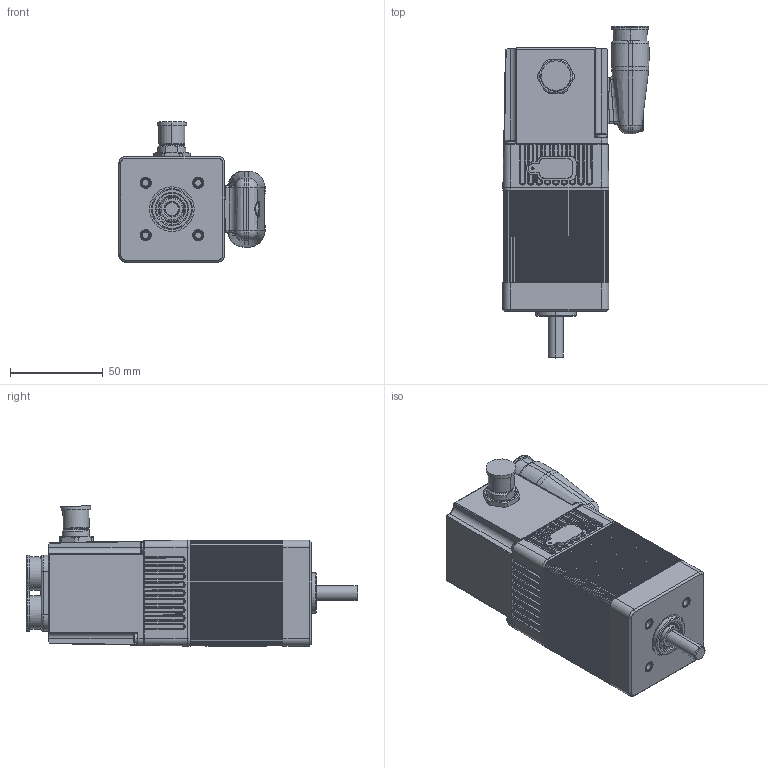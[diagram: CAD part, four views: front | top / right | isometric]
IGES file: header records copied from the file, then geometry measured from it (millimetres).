
Start section:  PTC IGES file: 80280302.igs
Global section: file name: 80280302.igs; native system: Creo Elements/Pro by Parametric Technology Corporation; preprocessor: 2012090; author: RGAMET01; organization: Unknown; date: 20150409.111043; units: millimetre
Bounding box: 78.9 x 178.97 x 75.66 mm (x, y, z)
Surface area: 64343.4 mm2 (no closed solid volume)
Topology: 0 solids, 0 shells, 2310 faces, 11112 edges, 11102 vertices
Faces by surface type: revolution 1241, bspline 1069
